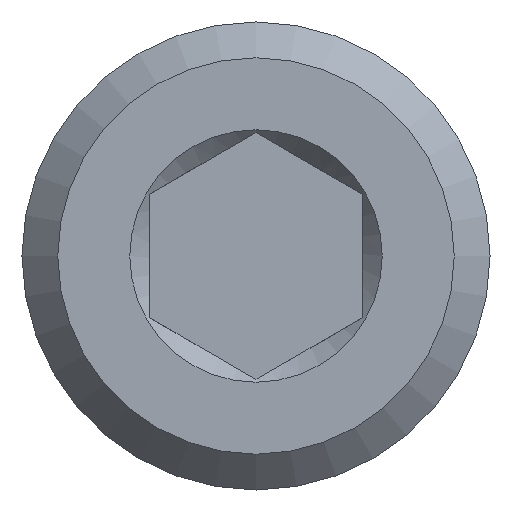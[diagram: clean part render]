
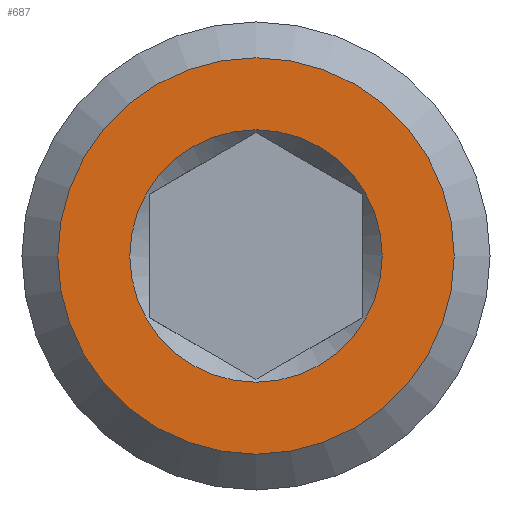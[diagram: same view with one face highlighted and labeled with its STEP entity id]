
A CAD part, front view. The second image highlights one B-rep face of the part: STEP entity #687.
In plain terms, the highlighted planar face has unit normal (0, -1, 0).
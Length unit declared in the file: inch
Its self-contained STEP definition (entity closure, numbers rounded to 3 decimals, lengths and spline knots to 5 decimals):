
#17=FACE_BOUND('',#146,.T.);
#63=CIRCLE('',#758,0.221);
#64=CIRCLE('',#760,0.347);
#104=FACE_OUTER_BOUND('',#145,.T.);
#145=EDGE_LOOP('',(#563));
#146=EDGE_LOOP('',(#564));
#319=VERTEX_POINT('',#1557);
#320=VERTEX_POINT('',#1561);
#412=EDGE_CURVE('',#319,#319,#63,.T.);
#413=EDGE_CURVE('',#320,#320,#64,.T.);
#563=ORIENTED_EDGE('',*,*,#413,.F.);
#564=ORIENTED_EDGE('',*,*,#412,.F.);
#654=PLANE('',#759);
#687=ADVANCED_FACE('',(#104,#17),#654,.T.);
#758=AXIS2_PLACEMENT_3D('',#1559,#905,#906);
#759=AXIS2_PLACEMENT_3D('',#1560,#907,#908);
#760=AXIS2_PLACEMENT_3D('',#1562,#909,#910);
#905=DIRECTION('center_axis',(0.,-1.,0.));
#906=DIRECTION('ref_axis',(0.,0.,1.));
#907=DIRECTION('center_axis',(0.,-1.,0.));
#908=DIRECTION('ref_axis',(0.,0.,-1.));
#909=DIRECTION('center_axis',(0.,1.,0.));
#910=DIRECTION('ref_axis',(0.,0.,1.));
#1557=CARTESIAN_POINT('',(0.,0.,-0.221));
#1559=CARTESIAN_POINT('Origin',(0.,0.,0.));
#1560=CARTESIAN_POINT('Origin',(0.,0.,-0.186));
#1561=CARTESIAN_POINT('',(0.,0.,-0.347));
#1562=CARTESIAN_POINT('Origin',(0.,0.,0.));
